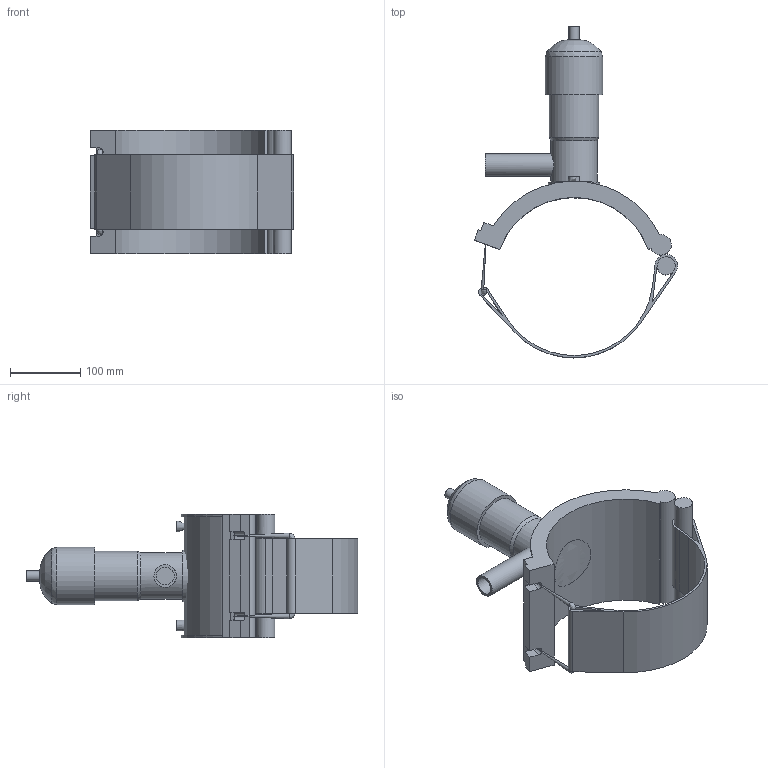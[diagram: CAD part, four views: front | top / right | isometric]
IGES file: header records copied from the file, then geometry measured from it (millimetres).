
Global section: file name: 495404225032.ipt; native system: Autodesk Inventor 2015; preprocessor: unknown; author: KIM; date: 20171106.094310; units: millimetre
Bounding box: 288.98 x 472.37 x 176 mm (x, y, z)
Volume: 2412029.9 mm3; surface area: 357121.1 mm2
Topology: 3 solids, 4 shells, 81 faces, 196 edges, 130 vertices
Faces by surface type: plane 45, cylinder 20, revolution 13, cone 3
Full cylindrical faces by diameter (mm): 4 x2, 7.65 x2, 14.64 x1, 25.615 x1, 32 x1, 65.88 x1, 70.76 x1, 73.2 x1, 81.333 x1
